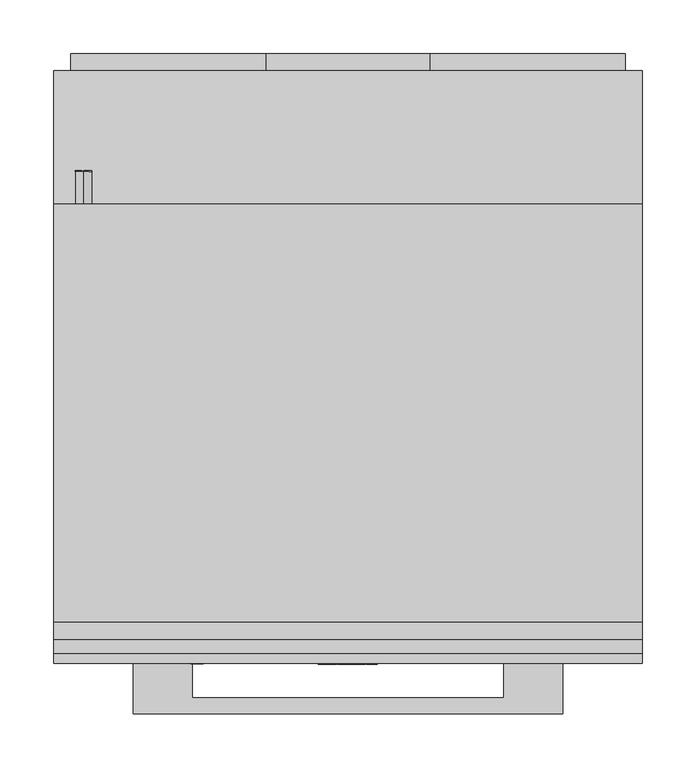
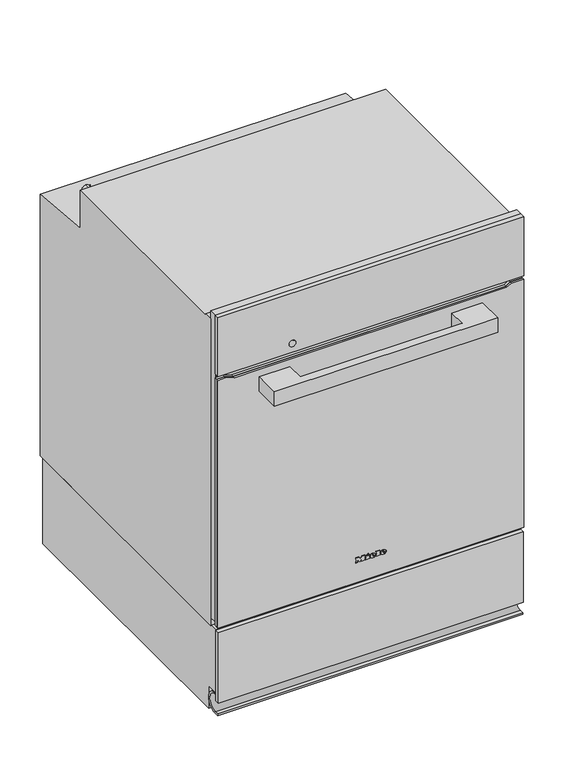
"""IFC4 building model written with IfcOpenShell, lengths in millimetres: proxy geometry, 11790250_CH_DGC7450-55_OBSW : 22745082_CH_11790250_DGC7450-55_OBSW."""

from ifc_helpers import new_model, si_unit, point, frame, frame_2d, origin, place, context, project, spatial, polyline, circle_curve, ellipse_curve, trimmed, segment, composite_curve, outline, extrude, faceted_brep, source, transform, mapped, element, save
from ifc_brep_helpers import plane_surface, cylinder_surface, revolved_surface, extruded_surface, advanced_brep


def specialty_equipment_8915e9b3(model_context):
    return source(origin(), model_context, "Body", "SolidModel", [
        extrude(outline(polyline([(-273.5, -14.0), (273.5, -14.0), (273.5, -22.0), (-273.5, -22.0), (-273.5, -14.0)])), frame((0.0, 0.0, 28.0), z_axis=(0.0, 0.0, 1.0), x_axis=(1.0, 0.0, 0.0)), (0.0, 0.0, 1.0), 133.5),
        extrude(outline(composite_curve([segment(polyline([(-20.0, 3.3413786), (-20.0, 6.5166751), (-12.6417749, 6.5166751)]), True, "CONTINUOUS"), segment(trimmed(circle_curve(frame_2d((-12.6417749, 23.0333249)), 16.5166498), [point((-12.6417749, 6.5166751))], [point((-11.3579007, 39.5))], True, "CARTESIAN"), True, "CONTINUOUS"), segment(polyline([(-11.3579007, 39.5), (-14.0, 39.5), (-14.0, 42.0), (-12.0, 42.0)]), True, "CONTINUOUS"), segment(trimmed(circle_curve(frame_2d((-12.0, 23.0)), 19.0), [point((-12.0, 42.0))], [point((7.0, 23.0))], False, "CARTESIAN"), True, "CONTINUOUS"), segment(trimmed(circle_curve(frame_2d((-14.9470942, 23.0)), 21.9470942), [point((7.0, 23.0))], [point((3.3965309, 10.9506696))], False, "CARTESIAN"), True, "CONTINUOUS"), segment(trimmed(circle_curve(frame_2d((-12.0, 22.7225846)), 19.381206), [point((3.3965309, 10.9506696))], [point((-12.0, 3.3413786))], False, "CARTESIAN"), True, "CONTINUOUS"), segment(polyline([(-12.0, 3.3413786), (-20.0, 3.3413786)]), True, "CONTINUOUS")], self_intersect=False)), frame((-273.5, 0.0, 0.0), z_axis=(1.0, 0.0, 0.0), x_axis=(0.0, 1.0, 0.0)), (0.0, 0.0, 1.0), 547.0),
        extrude(outline(polyline([(-14.0, 162.0), (522.0, 162.0), (522.0, 0.0), (8.0, 0.0), (8.0, 43.1784801), (-14.0, 43.1784801), (-14.0, 162.0)])), frame((-273.5, 0.0, 0.0), z_axis=(1.0, 0.0, 0.0), x_axis=(0.0, 1.0, 0.0)), (0.0, 0.0, 1.0), 547.0),
        advanced_brep(
        [(21.28, -23.0, 210.133), (21.28, -23.0, 211.042), (27.301, -23.0, 211.042), (16.825, -23.0, 211.042), (19.3, -23.0, 208.0), (27.148, -23.0, 210.133), (24.43, -23.0, 210.133), (22.288, -23.0, 209.125), (21.28, -23.0, 212.194), (21.28, -23.0, 213.175), (22.819, -23.0, 213.175), (22.819, -23.0, 212.194), (21.28, -22.0, 210.133), (22.288, -22.0, 209.125), (24.43, -22.0, 210.133), (27.148, -22.0, 210.133), (19.3, -22.0, 208.0), (16.825, -22.0, 211.042), (27.301, -22.0, 211.042), (21.28, -22.0, 211.042), (21.28, -22.0, 212.194), (22.819, -22.0, 212.194), (22.819, -22.0, 213.175), (21.28, -22.0, 213.175)],
        [
            (0, 1),
            (1, 2),
            (2, 3, ellipse_curve(frame((22.063, -23.0, 211.042), z_axis=(0.0, -1.0, 0.0), x_axis=(-1.0, 0.0, 0.0)), 5.238, 4.329)),
            (3, 4, circle_curve(frame((20.3080491, -23.0, 211.348), z_axis=(0.0, -1.0, 0.0), x_axis=(0.0, 0.0, -1.0)), 3.4964649)),
            (4, 5, circle_curve(frame((21.9581428, -23.0, 213.724), z_axis=(0.0, -1.0, 0.0), x_axis=(0.0, 0.0, -1.0)), 6.3110933)),
            (5, 6),
            (6, 7, circle_curve(frame((22.7279412, -23.0, 210.97), z_axis=(0.0, 1.0, 0.0), x_axis=(0.0, 0.0, -1.0)), 1.896727)),
            (7, 0, circle_curve(frame((22.288, -23.0, 210.133), z_axis=(0.0, 1.0, 0.0), x_axis=(0.0, 0.0, -1.0)), 1.008)),
            (8, 9),
            (9, 10, circle_curve(frame((22.0495, -23.0, 213.175), z_axis=(0.0, 1.0, 0.0), x_axis=(0.0, 0.0, -1.0)), 0.7695)),
            (10, 11),
            (11, 8),
            (12, 13, circle_curve(frame((22.288, -22.0, 210.133), z_axis=(0.0, -1.0, 0.0), x_axis=(0.0, 0.0, -1.0)), 1.008)),
            (13, 14, circle_curve(frame((22.7279412, -22.0, 210.97), z_axis=(0.0, -1.0, 0.0), x_axis=(0.0, 0.0, -1.0)), 1.896727)),
            (14, 15),
            (15, 16, circle_curve(frame((21.9581428, -22.0, 213.724), z_axis=(0.0, 1.0, 0.0), x_axis=(0.0, 0.0, -1.0)), 6.3110933)),
            (16, 17, circle_curve(frame((20.3080491, -22.0, 211.348), z_axis=(0.0, 1.0, 0.0), x_axis=(0.0, 0.0, -1.0)), 3.4964649)),
            (17, 18, ellipse_curve(frame((22.063, -22.0, 211.042), z_axis=(0.0, 1.0, 0.0), x_axis=(-1.0, 0.0, 0.0)), 5.238, 4.329)),
            (18, 19),
            (19, 12),
            (20, 21),
            (21, 22),
            (22, 23, circle_curve(frame((22.0495, -22.0, 213.175), z_axis=(0.0, -1.0, 0.0), x_axis=(0.0, 0.0, -1.0)), 0.7695)),
            (23, 20),
            (0, 12),
            (19, 1),
            (18, 2),
            (5, 15),
            (14, 6),
            (17, 3),
            (13, 7),
            (16, 4),
            (8, 20),
            (23, 9),
            (22, 10),
            (21, 11),
        ],
        [
            plane_surface(frame((21.28, -23.0, 211.042), z_axis=(0.0, -1.0, 0.0), x_axis=(0.0, 0.0, 1.0))),
            plane_surface(frame((21.28, -22.0, 211.042), z_axis=(0.0, 1.0, 0.0), x_axis=(0.0, 0.0, -1.0))),
            plane_surface(frame((21.28, -23.0, 210.133), z_axis=(1.0, 0.0, 0.0), x_axis=(0.0, 1.0, 0.0))),
            plane_surface(frame((21.28, -23.0, 211.042), z_axis=(0.0, 0.0, -1.0), x_axis=(0.0, 1.0, 0.0))),
            plane_surface(frame((27.148, -23.0, 210.133), z_axis=(0.0, 0.0, 1.0), x_axis=(0.0, 1.0, 0.0))),
            extruded_surface(trimmed(ellipse_curve(frame((22.063, -21.0, 211.042), z_axis=(0.0, -1.0, 0.0), x_axis=(-1.0, 0.0, 0.0)), 5.238, 4.329), [point((27.301, -21.0, 211.042))], [point((16.825, -21.0, 211.042))], True, "CARTESIAN"), (0.0, -1.0, 0.0), 1.0),
            revolved_surface(polyline([(22.7279412, -22.0, 209.073273), (22.7279412, -23.0, 209.073273)]), (22.7279412, -22.0, 210.97), (0.0, 1.0, 0.0)),
            revolved_surface(polyline([(22.288, -22.0, 209.125), (22.288, -23.0, 209.125)]), (22.288, -22.0, 210.133), (0.0, 1.0, 0.0)),
            cylinder_surface(frame((20.3080491, -22.0, 211.348), z_axis=(0.0, -1.0, 0.0), x_axis=(0.0, 0.0, -1.0)), 3.4964649),
            cylinder_surface(frame((21.9581428, -22.0, 213.724), z_axis=(0.0, -1.0, 0.0), x_axis=(0.0, 0.0, -1.0)), 6.3110933),
            plane_surface(frame((21.28, -23.0, 212.194), z_axis=(1.0, 0.0, 0.0), x_axis=(0.0, 1.0, 0.0))),
            revolved_surface(polyline([(22.0495, -22.0, 212.40550000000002), (22.0495, -23.0, 212.40550000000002)]), (22.0495, -22.0, 213.175), (0.0, 1.0, 0.0)),
            plane_surface(frame((22.819, -23.0, 213.175), z_axis=(-1.0, 0.0, 0.0), x_axis=(0.0, 1.0, 0.0))),
            plane_surface(frame((22.819, -23.0, 212.194), z_axis=(0.0, 0.0, 1.0), x_axis=(0.0, 1.0, 0.0))),
        ],
        [
            (0, [[1, 2, 3, 4, 5, 6, 7, 8], [9, 10, 11, 12]]),
            (1, [[13, 14, 15, 16, 17, 18, 19, 20], [21, 22, 23, 24]]),
            (2, [[-1, 25, -20, 26]]),
            (3, [[-2, -26, -19, 27]]),
            (4, [[-6, 28, -15, 29]]),
            (5, [[-3, -27, -18, 30]]),
            (6, [[-7, -29, -14, 31]]),
            (7, [[-8, -31, -13, -25]]),
            (8, [[-4, -30, -17, 32]]),
            (9, [[-5, -32, -16, -28]]),
            (10, [[-9, 33, -24, 34]]),
            (11, [[-10, -34, -23, 35]]),
            (12, [[-11, -35, -22, 36]]),
            (13, [[-12, -36, -21, -33]]),
        ],
    ),
        advanced_brep(
        [(2.497, -23.0, 210.133), (2.497, -23.0, 211.042), (8.518, -23.0, 211.042), (-1.958, -23.0, 211.042), (0.517, -23.0, 208.0), (8.365, -23.0, 210.133), (5.647, -23.0, 210.133), (3.505, -23.0, 209.125), (2.497, -23.0, 212.194), (2.497, -23.0, 213.175), (4.036, -23.0, 213.175), (4.036, -23.0, 212.194), (2.497, -22.0, 210.133), (3.505, -22.0, 209.125), (5.647, -22.0, 210.133), (8.365, -22.0, 210.133), (0.517, -22.0, 208.0), (-1.958, -22.0, 211.042), (8.518, -22.0, 211.042), (2.497, -22.0, 211.042), (2.497, -22.0, 212.194), (4.036, -22.0, 212.194), (4.036, -22.0, 213.175), (2.497, -22.0, 213.175)],
        [
            (0, 1),
            (1, 2),
            (2, 3, ellipse_curve(frame((3.28, -23.0, 211.042), z_axis=(0.0, -1.0, 0.0), x_axis=(-1.0, 0.0, 0.0)), 5.238, 4.329)),
            (3, 4, circle_curve(frame((1.5250491, -23.0, 211.348), z_axis=(0.0, -1.0, 0.0), x_axis=(0.0, 0.0, -1.0)), 3.4964649)),
            (4, 5, circle_curve(frame((3.1751428, -23.0, 213.724), z_axis=(0.0, -1.0, 0.0), x_axis=(0.0, 0.0, -1.0)), 6.3110933)),
            (5, 6),
            (6, 7, circle_curve(frame((3.9449412, -23.0, 210.97), z_axis=(0.0, 1.0, 0.0), x_axis=(0.0, 0.0, -1.0)), 1.896727)),
            (7, 0, circle_curve(frame((3.505, -23.0, 210.133), z_axis=(0.0, 1.0, 0.0), x_axis=(0.0, 0.0, -1.0)), 1.008)),
            (8, 9),
            (9, 10, circle_curve(frame((3.2665, -23.0, 213.175), z_axis=(0.0, 1.0, 0.0), x_axis=(0.0, 0.0, -1.0)), 0.7695)),
            (10, 11),
            (11, 8),
            (12, 13, circle_curve(frame((3.505, -22.0, 210.133), z_axis=(0.0, -1.0, 0.0), x_axis=(0.0, 0.0, -1.0)), 1.008)),
            (13, 14, circle_curve(frame((3.9449412, -22.0, 210.97), z_axis=(0.0, -1.0, 0.0), x_axis=(0.0, 0.0, -1.0)), 1.896727)),
            (14, 15),
            (15, 16, circle_curve(frame((3.1751428, -22.0, 213.724), z_axis=(0.0, 1.0, 0.0), x_axis=(0.0, 0.0, -1.0)), 6.3110933)),
            (16, 17, circle_curve(frame((1.5250491, -22.0, 211.348), z_axis=(0.0, 1.0, 0.0), x_axis=(0.0, 0.0, -1.0)), 3.4964649)),
            (17, 18, ellipse_curve(frame((3.28, -22.0, 211.042), z_axis=(0.0, 1.0, 0.0), x_axis=(-1.0, 0.0, 0.0)), 5.238, 4.329)),
            (18, 19),
            (19, 12),
            (20, 21),
            (21, 22),
            (22, 23, circle_curve(frame((3.2665, -22.0, 213.175), z_axis=(0.0, -1.0, 0.0), x_axis=(0.0, 0.0, -1.0)), 0.7695)),
            (23, 20),
            (0, 12),
            (19, 1),
            (18, 2),
            (5, 15),
            (14, 6),
            (17, 3),
            (13, 7),
            (16, 4),
            (8, 20),
            (23, 9),
            (22, 10),
            (21, 11),
        ],
        [
            plane_surface(frame((2.497, -23.0, 211.042), z_axis=(0.0, -1.0, 0.0), x_axis=(0.0, 0.0, 1.0))),
            plane_surface(frame((2.497, -22.0, 211.042), z_axis=(0.0, 1.0, 0.0), x_axis=(0.0, 0.0, -1.0))),
            plane_surface(frame((2.497, -23.0, 210.133), z_axis=(1.0, 0.0, 0.0), x_axis=(0.0, 1.0, 0.0))),
            plane_surface(frame((2.497, -23.0, 211.042), z_axis=(0.0, 0.0, -1.0), x_axis=(0.0, 1.0, 0.0))),
            plane_surface(frame((8.365, -23.0, 210.133), z_axis=(0.0, 0.0, 1.0), x_axis=(0.0, 1.0, 0.0))),
            extruded_surface(trimmed(ellipse_curve(frame((3.28, -21.0, 211.042), z_axis=(0.0, -1.0, 0.0), x_axis=(-1.0, 0.0, 0.0)), 5.238, 4.329), [point((8.518, -21.0, 211.042))], [point((-1.958, -21.0, 211.042))], True, "CARTESIAN"), (0.0, -1.0, 0.0), 1.0),
            revolved_surface(polyline([(3.9449412, -22.0, 209.073273), (3.9449412, -23.0, 209.073273)]), (3.9449412, -22.0, 210.97), (0.0, 1.0, 0.0)),
            revolved_surface(polyline([(3.505, -22.0, 209.125), (3.505, -23.0, 209.125)]), (3.505, -22.0, 210.133), (0.0, 1.0, 0.0)),
            cylinder_surface(frame((1.5250491, -22.0, 211.348), z_axis=(0.0, -1.0, 0.0), x_axis=(0.0, 0.0, -1.0)), 3.4964649),
            cylinder_surface(frame((3.1751428, -22.0, 213.724), z_axis=(0.0, -1.0, 0.0), x_axis=(0.0, 0.0, -1.0)), 6.3110933),
            plane_surface(frame((2.497, -23.0, 212.194), z_axis=(1.0, 0.0, 0.0), x_axis=(0.0, 1.0, 0.0))),
            revolved_surface(polyline([(3.2665, -22.0, 212.40550000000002), (3.2665, -23.0, 212.40550000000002)]), (3.2665, -22.0, 213.175), (0.0, 1.0, 0.0)),
            plane_surface(frame((4.036, -23.0, 213.175), z_axis=(-1.0, 0.0, 0.0), x_axis=(0.0, 1.0, 0.0))),
            plane_surface(frame((4.036, -23.0, 212.194), z_axis=(0.0, 0.0, 1.0), x_axis=(0.0, 1.0, 0.0))),
        ],
        [
            (0, [[1, 2, 3, 4, 5, 6, 7, 8], [9, 10, 11, 12]]),
            (1, [[13, 14, 15, 16, 17, 18, 19, 20], [21, 22, 23, 24]]),
            (2, [[-1, 25, -20, 26]]),
            (3, [[-2, -26, -19, 27]]),
            (4, [[-6, 28, -15, 29]]),
            (5, [[-3, -27, -18, 30]]),
            (6, [[-7, -29, -14, 31]]),
            (7, [[-8, -31, -13, -25]]),
            (8, [[-4, -30, -17, 32]]),
            (9, [[-5, -32, -16, -28]]),
            (10, [[-9, 33, -24, 34]]),
            (11, [[-10, -34, -23, 35]]),
            (12, [[-11, -35, -22, 36]]),
            (13, [[-12, -36, -21, -33]]),
        ],
    ),
        extrude(outline(polyline([(216.469, -7.34), (215.011, -6.656), (216.433, -3.605), (217.891, -4.28), (216.469, -7.34)])), frame((0.0, -23.0, 0.0), z_axis=(0.0, 1.0, 0.0), x_axis=(0.0, 0.0, 1.0)), (0.0, 0.0, 1.0), 1.0),
        extrude(outline(polyline([(214.813, -9.563), (213.202, -9.563), (213.202, -8.492), (209.512, -8.492), (209.512, -9.563), (208.0, -9.563), (208.0, -2.462), (209.512, -2.462), (209.512, -3.506), (214.813, -3.506), (214.813, -9.563)])), frame((0.0, -23.0, 0.0), z_axis=(0.0, 1.0, 0.0), x_axis=(0.0, 0.0, 1.0)), (0.0, 0.0, 1.0), 1.0),
        extrude(outline(polyline([(215.533, 9.022), (215.533, 10.102), (209.512, 10.102), (209.512, 9.022), (208.0, 9.022), (208.0, 16.321), (209.512, 16.321), (209.512, 15.214), (217.0, 15.214), (217.0, 9.022), (215.533, 9.022)])), frame((0.0, -23.0, 0.0), z_axis=(0.0, 1.0, 0.0), x_axis=(0.0, 0.0, 1.0)), (0.0, 0.0, 1.0), 1.0),
        extrude(outline(polyline([(215.533, -27.5), (215.533, -26.411), (209.512, -26.411), (209.512, -27.5), (208.0, -27.5), (208.0, -23.54), (209.512, -23.54), (209.512, -24.62), (213.3341247, -24.62), (208.0, -20.597), (213.4402223, -16.556), (209.512, -16.556), (209.512, -17.663), (208.0, -17.663), (208.0, -10.481), (209.512, -10.481), (209.512, -11.624), (215.533, -11.624), (215.533, -10.481), (217.0, -10.481), (217.0, -15.962), (213.625, -18.59), (217.0, -21.227), (217.0, -27.5), (215.533, -27.5)])), frame((0.0, -23.0, 0.0), z_axis=(0.0, 1.0, 0.0), x_axis=(0.0, 0.0, 1.0)), (0.0, 0.0, 1.0), 1.0),
        extrude(outline(polyline([(-200.0, -69.0), (-200.0, -22.0), (-145.0, -22.0), (-145.0, -54.0), (145.0, -54.0), (145.0, -22.0), (200.0, -22.0), (200.0, -69.0), (-200.0, -69.0)])), frame((0.0, 0.0, 593.5), z_axis=(0.0, 0.0, 1.0), x_axis=(1.0, 0.0, 0.0)), (0.0, 0.0, 1.0), 27.0),
        extrude(outline(polyline([(639.5, -274.0), (170.0, -274.0), (170.0, 274.0), (639.5, 274.0), (639.5, 252.5209298), (634.5, 244.0), (634.5, -244.0), (639.5, -260.3542631), (639.5, -274.0)])), frame((0.0, -18.0, 0.0), z_axis=(0.0, 1.0, 0.0), x_axis=(0.0, 0.0, 1.0)), (0.0, 0.0, 1.0), 5.0),
        extrude(outline(polyline([(639.5, -274.0), (170.0, -274.0), (170.0, 274.0), (639.5, 274.0), (639.5, 252.5209298), (634.5, 244.0), (634.5, -244.0), (639.5, -260.3542631), (639.5, -274.0)])), frame((0.0, -22.0, 0.0), z_axis=(0.0, 1.0, 0.0), x_axis=(0.0, 0.0, 1.0)), (0.0, 0.0, 1.0), 4.0),
        extrude(outline(polyline([(274.0, -22.0), (-274.0, -22.0), (-274.0, -13.0), (274.0, -13.0), (274.0, -22.0)])), frame((0.0, 0.0, 646.5), z_axis=(0.0, 0.0, 1.0), x_axis=(1.0, 0.0, 0.0)), (0.0, 0.0, 1.0), 111.5),
        extrude(outline(composite_curve([segment(trimmed(circle_curve(frame_2d((663.5, -140.5745637)), 6.0), [point((663.5, -146.5745637))], [point((663.5, -134.5745637))], False, "CARTESIAN"), True, "CONTINUOUS"), segment(trimmed(circle_curve(frame_2d((663.5, -140.5745637)), 6.0), [point((663.5, -134.5745637))], [point((663.5, -146.5745637))], False, "CARTESIAN"), True, "CONTINUOUS")], self_intersect=False)), frame((0.0, -22.5, 0.0), z_axis=(0.0, 1.0, 0.0), x_axis=(0.0, 0.0, 1.0)), (0.0, 0.0, 1.0), 1.0),
        extrude(outline(polyline([(720.0464496, -245.8425503), (718.7915157, -245.8425503), (718.7915157, -239.8786472), (715.8088265, -239.8786472), (715.8088265, -245.5253567), (714.5510117, -245.5253567), (714.5510117, -239.8786472), (711.2605911, -239.8786472), (711.2605911, -245.9946301), (709.9978772, -245.9946301), (709.9978772, -238.6251477), (720.0464496, -238.6251477), (720.0464496, -245.8425503)])), frame((0.0, 436.0, 0.0), z_axis=(0.0, 1.0, 0.0), x_axis=(0.0, 0.0, 1.0)), (0.0, 0.0, 1.0), 1.0),
        extrude(outline(polyline([(720.0498619, -249.1372374), (711.2558696, -249.1372374), (711.2558696, -254.1557124), (710.0011788, -254.1557124), (710.0011788, -247.8766443), (720.0498619, -247.8766443), (720.0498619, -249.1372374)])), frame((0.0, 436.0, 0.0), z_axis=(0.0, 1.0, 0.0), x_axis=(0.0, 0.0, 1.0)), (0.0, 0.0, 1.0), 1.0),
        extrude(outline(composite_curve([segment(trimmed(circle_curve(frame_2d((715.0, -246.0)), 7.5), [point((707.5, -246.0))], [point((722.5, -246.0))], False, "CARTESIAN"), True, "CONTINUOUS"), segment(trimmed(circle_curve(frame_2d((715.0, -246.0)), 7.5), [point((722.5, -246.0))], [point((707.5, -246.0))], False, "CARTESIAN"), True, "CONTINUOUS")], self_intersect=False)), frame((0.0, 406.0, 0.0), z_axis=(0.0, 1.0, 0.0), x_axis=(0.0, 0.0, 1.0)), (0.0, 0.0, 1.0), 30.0),
        faceted_brep([(272.0, 25.0, 646.0), (-272.0, 25.0, 646.0), (-272.0, 25.0, 177.0), (272.0, 25.0, 177.0), (-235.0, 25.0, 590.0), (235.0, 25.0, 590.0), (235.0, 25.0, 204.0), (-235.0, 25.0, 204.0), (272.0, 0.0, 646.0), (-272.0, 0.0, 646.0), (-272.0, 0.0, 177.0), (272.0, 0.0, 177.0), (274.0, 0.0, 162.0), (274.0, 530.0, 162.0), (274.0, 530.0, 657.3998186), (274.0, 406.0, 668.2484129), (274.0, 406.0, 740.0), (274.0, 16.0, 740.0), (274.0, 16.0, 743.0), (274.0, 0.0, 743.0), (-274.0, 0.0, 162.0), (-274.0, 0.0, 743.0), (-274.0, 16.0, 743.0), (-274.0, 16.0, 740.0), (-274.0, 406.0, 740.0), (-274.0, 406.0, 668.2484129), (-274.0, 530.0, 657.3998186), (-274.0, 530.0, 162.0), (235.0, 433.0, 590.0), (-235.0, 433.0, 590.0), (-235.0, 433.0, 204.0), (235.0, 433.0, 204.0)], [[[0, 1, 2, 3], [4, 5, 6, 7]], [[1, 0, 8, 9]], [[2, 1, 9, 10]], [[0, 3, 11, 8]], [[12, 13, 14, 15, 16, 17, 18, 19]], [[20, 21, 22, 23, 24, 25, 26, 27]], [[13, 12, 20, 27]], [[13, 27, 26, 14]], [[23, 17, 16, 24]], [[12, 19, 21, 20], [9, 8, 11, 10]], [[28, 29, 30, 31]], [[29, 28, 5, 4]], [[30, 29, 4, 7]], [[31, 30, 7, 6]], [[28, 31, 6, 5]], [[3, 2, 10, 11]], [[18, 17, 23, 22]], [[19, 18, 22, 21]], [[15, 25, 24, 16]], [[25, 15, 14, 26]]]),
        extrude(outline(polyline([(504.5, 76.0), (545.5, 76.0), (545.5, -76.0), (504.5, -76.0), (504.5, -258.0), (362.5, -258.0), (362.5, -76.0), (321.5, -76.0), (321.5, 76.0), (362.5, 76.0), (362.5, 258.0), (504.5, 258.0), (504.5, 76.0)])), frame((0.0, 530.0, 0.0), z_axis=(0.0, 1.0, 0.0), x_axis=(0.0, 0.0, 1.0)), (0.0, 0.0, 1.0), 16.0),
        extrude(outline(polyline([(177.0, 274.0), (758.0, 274.0), (758.0, -274.0), (177.0, -274.0), (177.0, -272.0), (646.0, -272.0), (646.0, 272.0), (177.0, 272.0), (177.0, 274.0)])), frame((0.0, -13.0, 0.0), z_axis=(0.0, 1.0, 0.0), x_axis=(0.0, 0.0, 1.0)), (0.0, 0.0, 1.0), 13.0),
    ])


if __name__ == "__main__":
    model = new_model("IFC4")
    model_context = context("Model", 3, world=origin())
    ifc_project = project(units=[si_unit("LENGTHUNIT", "METRE", prefix="MILLI")], contexts=[model_context])
    site = spatial("IfcSite", under=ifc_project)
    building = spatial("IfcBuilding", under=site)
    placement = place(None, origin())
    specialty_equipment_shape = specialty_equipment_8915e9b3(model_context)
    element("IfcBuildingElementProxy", 1, Name="11790250_CH_DGC7450-55_OBSW : 22745082_CH_11790250_DGC7450-55_OBSW", ObjectType="11790250_CH_DGC7450-55_OBSW : 22745082_CH_11790250_DGC7450-55_OBSW", at=placement, inside=building, context=model_context, shape_type="MappedRepresentation", body=[
        mapped(specialty_equipment_shape, transform((0.0, 0.0, 0.0), x_axis=(1.0, 0.0, 0.0), y_axis=(0.0, 1.0, 0.0), z_axis=(0.0, 0.0, 1.0))),
    ])
    save(model, "model.ifc")
